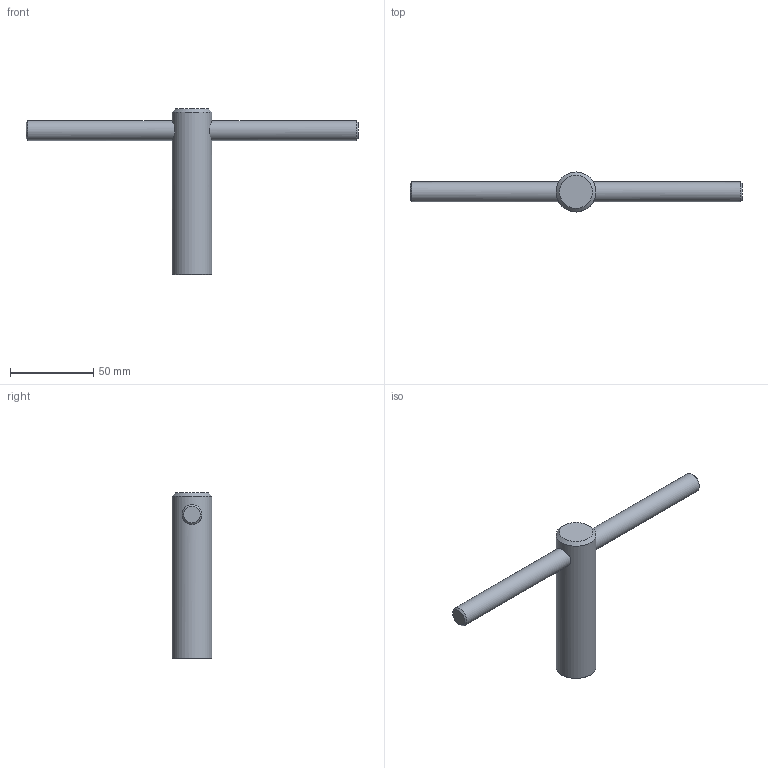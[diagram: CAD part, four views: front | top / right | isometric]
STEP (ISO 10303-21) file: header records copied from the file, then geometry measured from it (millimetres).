
FILE_DESCRIPTION(/* description */ (''),/* implementation_level */ '2;1');
FILE_NAME(/* name */ '\\DC01\Daten\CAD\Standard\Daten\3D-Datenbank\SWS\4 - 3D-CAD-Daten SWS 050-160\SWS100\step-Daten\ZG-VKS100-SW12.stp',/* time_stamp */ '2022-08-16T11:25:22+02:00',/* author */ ('mbecker'),/* organization */ ('GRIP GmbH'),/* preprocessor_version */ 'ST-DEVELOPER v17',/* originating_system */ 'Autodesk Inventor 2018',/* authorisation */ '');
FILE_SCHEMA (('AUTOMOTIVE_DESIGN { 1 0 10303 214 3 1 1 }'));
Length unit declared in the file: millimetre
Products named in the file (1): ZG-52192-SSW12
Bounding box: 200 x 24 x 100 mm (x, y, z)
Volume: 62076.1 mm3; surface area: 15918.7 mm2
Topology: 1 solids, 1 shells, 16 faces, 32 edges, 20 vertices
Faces by surface type: plane 9, cone 4, cylinder 3
Full cylindrical faces by diameter (mm): 12 x2, 24 x1
Entity records: 511 total; most frequent: CARTESIAN_POINT 137, DIRECTION 70, ORIENTED_EDGE 64, EDGE_CURVE 32, AXIS2_PLACEMENT_3D 25, LINE 20, VECTOR 20, VERTEX_POINT 20
